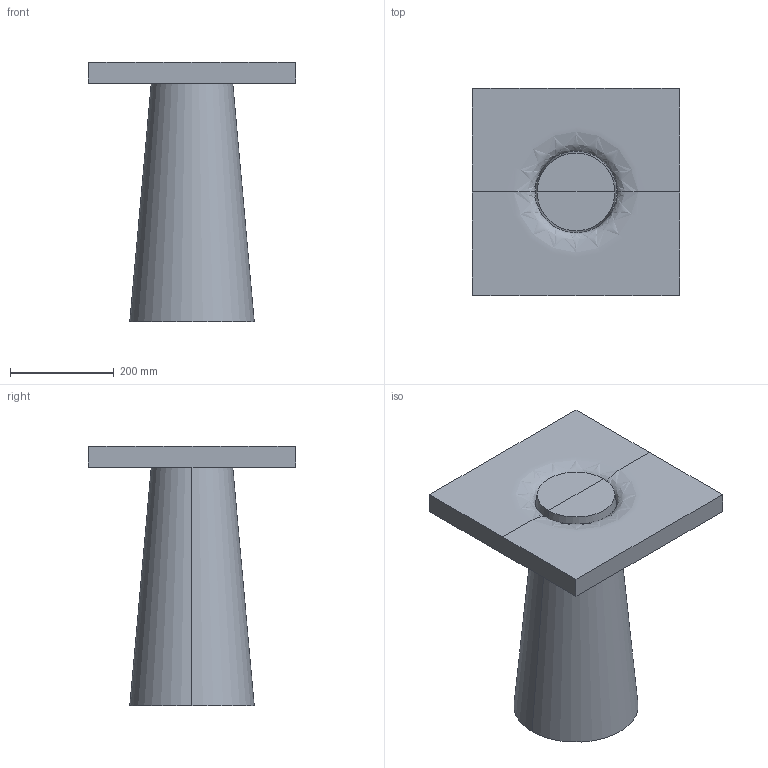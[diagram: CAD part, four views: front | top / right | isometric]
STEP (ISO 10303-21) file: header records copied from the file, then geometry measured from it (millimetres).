
FILE_DESCRIPTION(/* description */ (''),/* implementation_level */ '2;1');
FILE_NAME(/* name */ 'Grova Side Table_Ferm_Living_3D',/* time_stamp */ '2026-01-26T15:29:24+01:00',/* author */ (''),/* organization */ (''),/* preprocessor_version */ 'ST-DEVELOPER v19.2',/* originating_system */ 'Rhino 8.27',/* authorisation */ '');
FILE_SCHEMA (('CONFIG_CONTROL_DESIGN'));
Length unit declared in the file: millimetre
Products named in the file (1): Document
Bounding box: 400 x 400 x 500.01 mm (x, y, z)
Volume: 20669456 mm3; surface area: 750783.6 mm2
Topology: 3 solids, 3 shells, 26 faces, 56 edges, 32 vertices
Faces by surface type: plane 14, cylinder 6, bspline 6
Entity records: 6606 total; most frequent: CARTESIAN_POINT 6048, ORIENTED_EDGE 112, DIRECTION 60, EDGE_CURVE 56, AXIS2_PLACEMENT_3D 40, B_SPLINE_CURVE_WITH_KNOTS 34, VERTEX_POINT 32, ADVANCED_FACE 26
